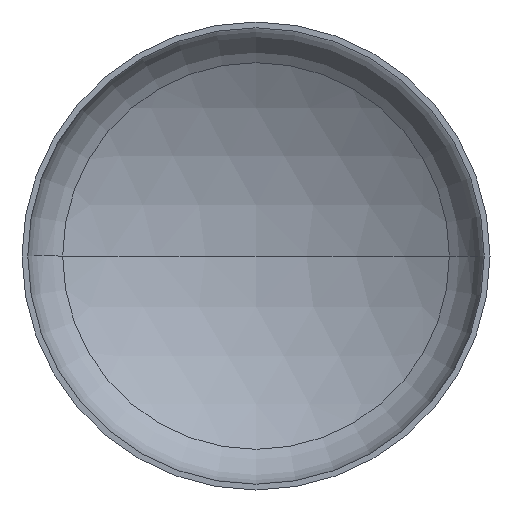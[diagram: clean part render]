
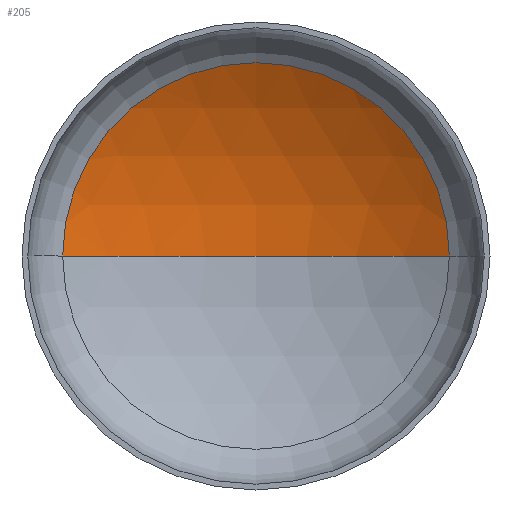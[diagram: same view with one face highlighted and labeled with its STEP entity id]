
A CAD part, front view. The second image highlights one B-rep face of the part: STEP entity #205.
In plain terms, the highlighted spherical face has radius 4800 mm.
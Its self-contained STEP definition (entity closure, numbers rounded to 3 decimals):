
#26 = VERTEX_POINT ( 'NONE', #343 ) ;
#36 = ORIENTED_EDGE ( 'NONE', *, *, #262, .T. ) ;
#43 = ORIENTED_EDGE ( 'NONE', *, *, #265, .T. ) ;
#45 = VERTEX_POINT ( 'NONE', #236 ) ;
#74 = VERTEX_POINT ( 'NONE', #207 ) ;
#80 = EDGE_LOOP ( 'NONE', ( #83, #43, #36 ) ) ;
#83 = ORIENTED_EDGE ( 'NONE', *, *, #272, .F. ) ;
#131 = AXIS2_PLACEMENT_3D ( 'NONE', #256, #228, #219 ) ;
#141 = AXIS2_PLACEMENT_3D ( 'NONE', #183, #185, #196 ) ;
#150 = AXIS2_PLACEMENT_3D ( 'NONE', #246, #243, #240 ) ;
#152 = CIRCLE ( 'NONE', #141, 2478.658 ) ;
#171 = CARTESIAN_POINT ( 'NONE',  ( 0., -3198.377, 0. ) ) ;
#181 = FACE_OUTER_BOUND ( 'NONE', #80, .T. ) ;
#183 = CARTESIAN_POINT ( 'NONE',  ( 0., 912.129, 0. ) ) ;
#185 = DIRECTION ( 'NONE',  ( 0., -1., 0. ) ) ;
#186 = DIRECTION ( 'NONE',  ( -1., 0., 0. ) ) ;
#189 = AXIS2_PLACEMENT_3D ( 'NONE', #171, #312, #186 ) ;
#196 = DIRECTION ( 'NONE',  ( 1., 0., 0. ) ) ;
#205 = ADVANCED_FACE ( 'NONE', ( #181 ), #369, .F. ) ;
#207 = CARTESIAN_POINT ( 'NONE',  ( 0., 1601.623, 0. ) ) ;
#219 = DIRECTION ( 'NONE',  ( 1., 0., 0. ) ) ;
#228 = DIRECTION ( 'NONE',  ( 0., 0., 1. ) ) ;
#233 = CIRCLE ( 'NONE', #131, 4800. ) ;
#236 = CARTESIAN_POINT ( 'NONE',  ( 2478.658, 912.129, 0. ) ) ;
#240 = DIRECTION ( 'NONE',  ( -1., 0., 0. ) ) ;
#243 = DIRECTION ( 'NONE',  ( 0., 0., -1. ) ) ;
#246 = CARTESIAN_POINT ( 'NONE',  ( 0., -3198.377, 0. ) ) ;
#256 = CARTESIAN_POINT ( 'NONE',  ( 0., -3198.377, 0. ) ) ;
#262 = EDGE_CURVE ( 'NONE', #45, #26, #152, .T. ) ;
#265 = EDGE_CURVE ( 'NONE', #74, #45, #358, .T. ) ;
#272 = EDGE_CURVE ( 'NONE', #74, #26, #233, .T. ) ;
#312 = DIRECTION ( 'NONE',  ( 0., 0., -1. ) ) ;
#343 = CARTESIAN_POINT ( 'NONE',  ( -2478.658, 912.129, 0. ) ) ;
#358 = CIRCLE ( 'NONE', #150, 4800. ) ;
#369 = SPHERICAL_SURFACE ( 'NONE', #189, 4800. ) ;
